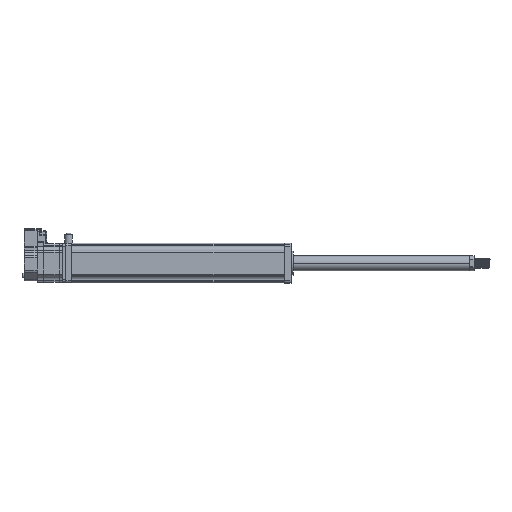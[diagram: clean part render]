
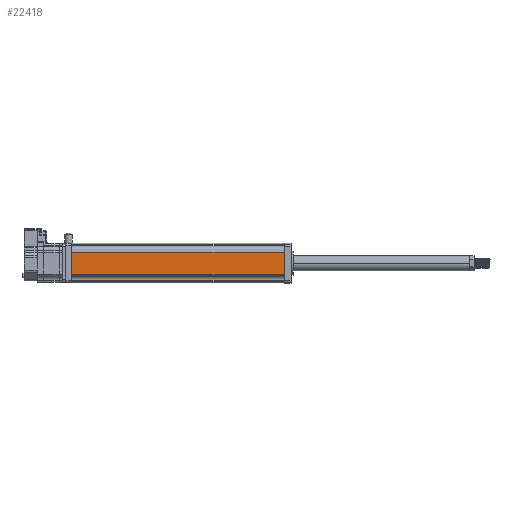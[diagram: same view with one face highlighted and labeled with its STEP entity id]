
A CAD part, front view. The second image highlights one B-rep face of the part: STEP entity #22418.
In plain terms, the highlighted planar face has unit normal (0, -1, 0).
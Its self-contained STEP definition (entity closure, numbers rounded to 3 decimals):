
#20561 = PLANE('',#20562);
#20562 = AXIS2_PLACEMENT_3D('',#20563,#20564,#20565);
#20563 = CARTESIAN_POINT('',(604.,20.655,
    -44.316));
#20564 = DIRECTION('',(-1.,0.,0.));
#20565 = DIRECTION('',(0.,-1.,0.));
#20622 = PLANE('',#20623);
#20623 = AXIS2_PLACEMENT_3D('',#20624,#20625,#20626);
#20624 = CARTESIAN_POINT('',(914.,20.655,
    -44.316));
#20625 = DIRECTION('',(-1.,0.,0.));
#20626 = DIRECTION('',(0.,-1.,0.));
#21004 = VERTEX_POINT('',#21005);
#21005 = CARTESIAN_POINT('',(914.,-37.345,
    -31.316));
#21013 = CYLINDRICAL_SURFACE('',#21014,2.5);
#21014 = AXIS2_PLACEMENT_3D('',#21015,#21016,#21017);
#21015 = CARTESIAN_POINT('',(604.,-34.845,
    -31.316));
#21016 = DIRECTION('',(-1.,0.,0.));
#21017 = DIRECTION('',(0.,-1.,0.));
#21032 = EDGE_CURVE('',#21004,#21033,#21035,.T.);
#21033 = VERTEX_POINT('',#21034);
#21034 = CARTESIAN_POINT('',(604.,-37.345,
    -31.316));
#21035 = SURFACE_CURVE('',#21036,(#21040,#21047),.PCURVE_S1.);
#21036 = LINE('',#21037,#21038);
#21037 = CARTESIAN_POINT('',(759.,-37.345,
    -31.316));
#21038 = VECTOR('',#21039,1.);
#21039 = DIRECTION('',(-1.,0.,0.));
#21040 = PCURVE('',#21013,#21041);
#21041 = DEFINITIONAL_REPRESENTATION('',(#21042),#21046);
#21042 = LINE('',#21043,#21044);
#21043 = CARTESIAN_POINT('',(6.283,-155.));
#21044 = VECTOR('',#21045,1.);
#21045 = DIRECTION('',(0.,1.));
#21046 = ( GEOMETRIC_REPRESENTATION_CONTEXT(2) 
PARAMETRIC_REPRESENTATION_CONTEXT() REPRESENTATION_CONTEXT('2D SPACE',''
  ) );
#21047 = PCURVE('',#21048,#21053);
#21048 = PLANE('',#21049);
#21049 = AXIS2_PLACEMENT_3D('',#21050,#21051,#21052);
#21050 = CARTESIAN_POINT('',(914.,-37.345,
    -31.316));
#21051 = DIRECTION('',(0.,1.,0.));
#21052 = DIRECTION('',(-1.,0.,0.));
#21053 = DEFINITIONAL_REPRESENTATION('',(#21054),#21058);
#21054 = LINE('',#21055,#21056);
#21055 = CARTESIAN_POINT('',(155.,0.));
#21056 = VECTOR('',#21057,1.);
#21057 = DIRECTION('',(1.,0.));
#21058 = ( GEOMETRIC_REPRESENTATION_CONTEXT(2) 
PARAMETRIC_REPRESENTATION_CONTEXT() REPRESENTATION_CONTEXT('2D SPACE',''
  ) );
#21120 = VERTEX_POINT('',#21121);
#21121 = CARTESIAN_POINT('',(604.,-37.345,
    0.684));
#21129 = CYLINDRICAL_SURFACE('',#21130,2.5);
#21130 = AXIS2_PLACEMENT_3D('',#21131,#21132,#21133);
#21131 = CARTESIAN_POINT('',(914.,-34.845,
    0.684));
#21132 = DIRECTION('',(1.,0.,0.));
#21133 = DIRECTION('',(0.,-1.,0.));
#21152 = EDGE_CURVE('',#21120,#21153,#21155,.T.);
#21153 = VERTEX_POINT('',#21154);
#21154 = CARTESIAN_POINT('',(914.,-37.345,
    0.684));
#21155 = SURFACE_CURVE('',#21156,(#21160,#21167),.PCURVE_S1.);
#21156 = LINE('',#21157,#21158);
#21157 = CARTESIAN_POINT('',(759.,-37.345,
    0.684));
#21158 = VECTOR('',#21159,1.);
#21159 = DIRECTION('',(1.,0.,0.));
#21160 = PCURVE('',#21129,#21161);
#21161 = DEFINITIONAL_REPRESENTATION('',(#21162),#21166);
#21162 = LINE('',#21163,#21164);
#21163 = CARTESIAN_POINT('',(6.283,-155.));
#21164 = VECTOR('',#21165,1.);
#21165 = DIRECTION('',(0.,1.));
#21166 = ( GEOMETRIC_REPRESENTATION_CONTEXT(2) 
PARAMETRIC_REPRESENTATION_CONTEXT() REPRESENTATION_CONTEXT('2D SPACE',''
  ) );
#21167 = PCURVE('',#21048,#21168);
#21168 = DEFINITIONAL_REPRESENTATION('',(#21169),#21173);
#21169 = LINE('',#21170,#21171);
#21170 = CARTESIAN_POINT('',(155.,32.));
#21171 = VECTOR('',#21172,1.);
#21172 = DIRECTION('',(-1.,0.));
#21173 = ( GEOMETRIC_REPRESENTATION_CONTEXT(2) 
PARAMETRIC_REPRESENTATION_CONTEXT() REPRESENTATION_CONTEXT('2D SPACE',''
  ) );
#21876 = EDGE_CURVE('',#21153,#21004,#21877,.T.);
#21877 = SURFACE_CURVE('',#21878,(#21882,#21889),.PCURVE_S1.);
#21878 = LINE('',#21879,#21880);
#21879 = CARTESIAN_POINT('',(914.,-37.345,
    -15.316));
#21880 = VECTOR('',#21881,1.);
#21881 = DIRECTION('',(0.,0.,-1.));
#21882 = PCURVE('',#20622,#21883);
#21883 = DEFINITIONAL_REPRESENTATION('',(#21884),#21888);
#21884 = LINE('',#21885,#21886);
#21885 = CARTESIAN_POINT('',(58.,29.));
#21886 = VECTOR('',#21887,1.);
#21887 = DIRECTION('',(0.,-1.));
#21888 = ( GEOMETRIC_REPRESENTATION_CONTEXT(2) 
PARAMETRIC_REPRESENTATION_CONTEXT() REPRESENTATION_CONTEXT('2D SPACE',''
  ) );
#21889 = PCURVE('',#21048,#21890);
#21890 = DEFINITIONAL_REPRESENTATION('',(#21891),#21895);
#21891 = LINE('',#21892,#21893);
#21892 = CARTESIAN_POINT('',(0.,16.));
#21893 = VECTOR('',#21894,1.);
#21894 = DIRECTION('',(0.,-1.));
#21895 = ( GEOMETRIC_REPRESENTATION_CONTEXT(2) 
PARAMETRIC_REPRESENTATION_CONTEXT() REPRESENTATION_CONTEXT('2D SPACE',''
  ) );
#22175 = EDGE_CURVE('',#21033,#21120,#22176,.T.);
#22176 = SURFACE_CURVE('',#22177,(#22181,#22188),.PCURVE_S1.);
#22177 = LINE('',#22178,#22179);
#22178 = CARTESIAN_POINT('',(604.,-37.345,
    -15.316));
#22179 = VECTOR('',#22180,1.);
#22180 = DIRECTION('',(0.,0.,1.));
#22181 = PCURVE('',#20561,#22182);
#22182 = DEFINITIONAL_REPRESENTATION('',(#22183),#22187);
#22183 = LINE('',#22184,#22185);
#22184 = CARTESIAN_POINT('',(58.,29.));
#22185 = VECTOR('',#22186,1.);
#22186 = DIRECTION('',(0.,1.));
#22187 = ( GEOMETRIC_REPRESENTATION_CONTEXT(2) 
PARAMETRIC_REPRESENTATION_CONTEXT() REPRESENTATION_CONTEXT('2D SPACE',''
  ) );
#22188 = PCURVE('',#21048,#22189);
#22189 = DEFINITIONAL_REPRESENTATION('',(#22190),#22194);
#22190 = LINE('',#22191,#22192);
#22191 = CARTESIAN_POINT('',(310.,16.));
#22192 = VECTOR('',#22193,1.);
#22193 = DIRECTION('',(0.,1.));
#22194 = ( GEOMETRIC_REPRESENTATION_CONTEXT(2) 
PARAMETRIC_REPRESENTATION_CONTEXT() REPRESENTATION_CONTEXT('2D SPACE',''
  ) );
#22418 = ADVANCED_FACE('',(#22419),#21048,.F.);
#22419 = FACE_BOUND('',#22420,.T.);
#22420 = EDGE_LOOP('',(#22421,#22422,#22423,#22424));
#22421 = ORIENTED_EDGE('',*,*,#21032,.F.);
#22422 = ORIENTED_EDGE('',*,*,#21876,.F.);
#22423 = ORIENTED_EDGE('',*,*,#21152,.F.);
#22424 = ORIENTED_EDGE('',*,*,#22175,.F.);
